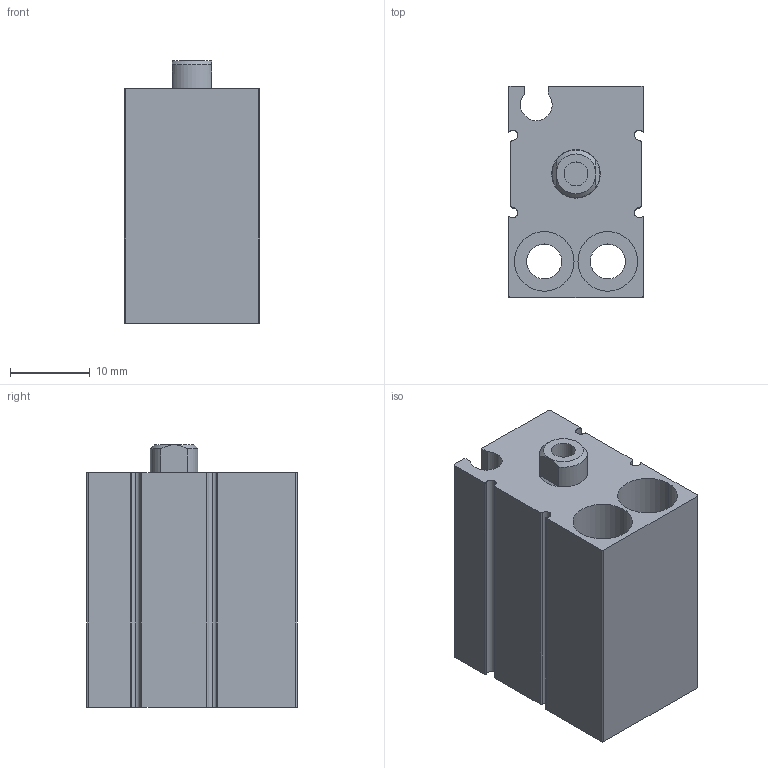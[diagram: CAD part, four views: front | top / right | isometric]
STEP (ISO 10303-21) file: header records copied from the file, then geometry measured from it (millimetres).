
FILE_DESCRIPTION (( 'STEP AP214' ), '1' );
FILE_NAME ('CDUJS12-10D.step.step', '2022-12-15T13:18:47', ( '' ), ( '' ), 'SwSTEP 2.0', 'SolidWorks 2022', '' );
FILE_SCHEMA (( 'AUTOMOTIVE_DESIGN' ));
Length unit declared in the file: millimetre
Products named in the file (3): CDUJS12-10D.step_CUJ-Rod_12; CDUJS12-10D.step; CDUJS12-10D.step_CUJ-Body_12DS
Assembly tree (2 placements, depth 2):
  CDUJS12-10D.step
    CDUJS12-10D.step_CUJ-Body_12DS
    CDUJS12-10D.step_CUJ-Rod_12
Bounding box: 17 x 26.5 x 33 mm (x, y, z)
Volume: 10147.7 mm3; surface area: 6403.3 mm2
Topology: 2 solids, 2 shells, 78 faces, 190 edges, 126 vertices
Faces by surface type: cylinder 47, plane 29, cone 2
Entity records: 2608 total; most frequent: DIRECTION 444, CARTESIAN_POINT 443, ORIENTED_EDGE 380, EDGE_CURVE 190, AXIS2_PLACEMENT_3D 179, VERTEX_POINT 126, CIRCLE 96, EDGE_LOOP 92
